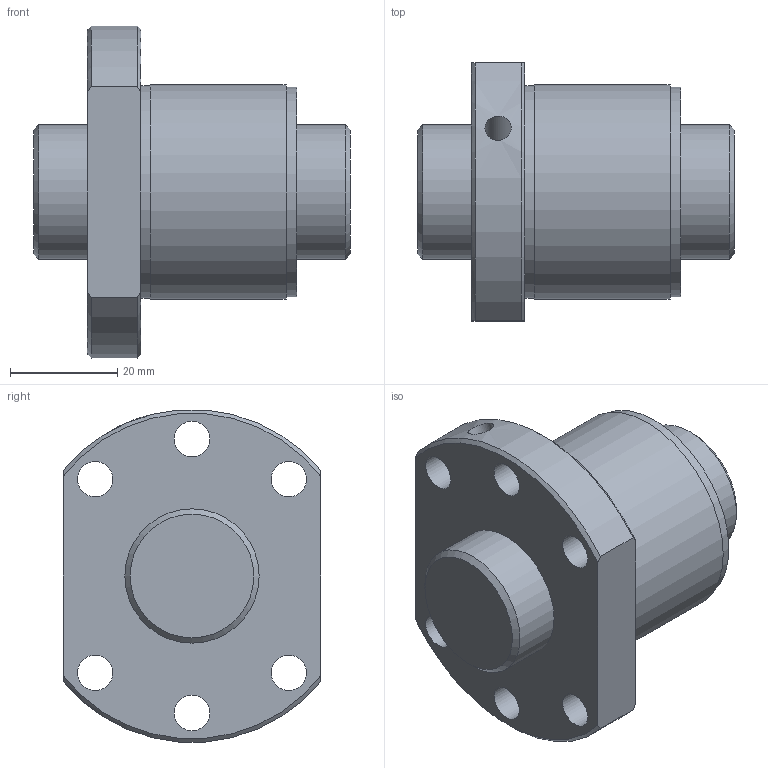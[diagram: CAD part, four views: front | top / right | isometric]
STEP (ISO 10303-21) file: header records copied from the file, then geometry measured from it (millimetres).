
FILE_DESCRIPTION(/* description */ ('STEP AP203'),/* implementation_level */ '2;1');
FILE_NAME(/* name */ 'SDA2510V-3G0+59LC0(0G000)',/* time_stamp */ '2024-05-28T11:30:43+02:00',/* author */ ('License CC BY-ND 4.0'),/* organization */ ('CADENAS'),/* preprocessor_version */ 'ST-DEVELOPER v19.3',/* originating_system */ 'PARTsolutions',/* authorisation */ ' ');
FILE_SCHEMA (('CONFIG_CONTROL_DESIGN'));
Length unit declared in the file: millimetre
Products named in the file (3): SDA2510V-3G0+59LC0(0G000); 000SDA2510V-30Shaft; SDA-V serieSDA2510V-3nut
Assembly tree (2 placements, depth 2):
  SDA2510V-3G0+59LC0(0G000)
    000SDA2510V-30Shaft
    SDA-V serieSDA2510V-3nut
Bounding box: 59 x 48 x 61.8 mm (x, y, z)
Volume: 70036.8 mm3; surface area: 19439.2 mm2
Topology: 2 solids, 2 shells, 31 faces, 74 edges, 50 vertices
Faces by surface type: cylinder 15, plane 9, cone 7
Full cylindrical faces by diameter (mm): 3.9 x1, 4.917 x1, 6.6 x6, 25 x2, 39 x1, 39.6 x1, 40 x1
Entity records: 915 total; most frequent: CARTESIAN_POINT 174, DIRECTION 144, ORIENTED_EDGE 104, AXIS2_PLACEMENT_3D 68, EDGE_LOOP 66, FACE_BOUND 66, EDGE_CURVE 52, VERTEX_POINT 44
